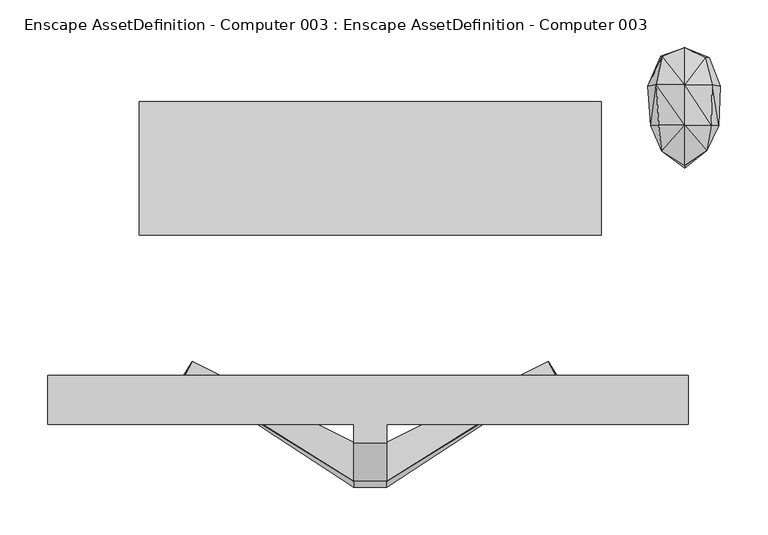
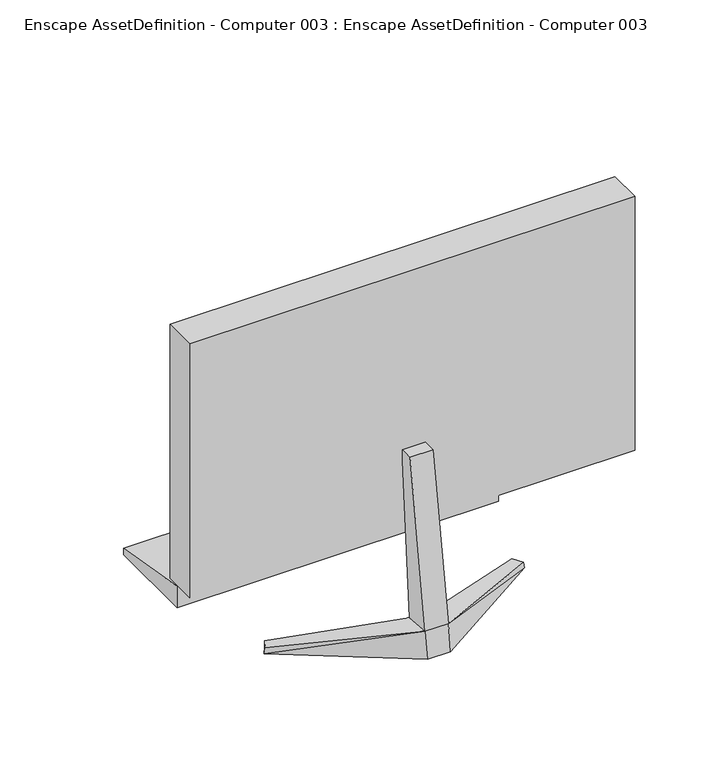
"""IFC4 building model written with IfcOpenShell, lengths in millimetres: geographic element geometry, Enscape AssetDefinition - Computer 003 : Enscape AssetDefinition - Computer 003."""

from ifc_helpers import new_model, si_unit, origin, place, context, project, spatial, triangles, source, transform, mapped, element, save


def enscape_assetdefinition_computer_003_enscape_assetdefinition_0dfb8451(model_context):
    return source(origin(), model_context, "Body", "Tessellation", [
        triangles([(-338.1716912, -38.3000741, 575.0920046), (-338.1716912, -38.3001422, 170.3935965), (-338.1716912, 13.2326657, 170.3935965), (333.1434371, -38.3000695, 575.0920046), (333.1434371, 13.2327293, 575.0920046), (333.1434371, -38.3001377, 170.3935965), (333.1434371, 13.2326657, 170.3935965), (-338.1716912, 13.2327293, 575.0920046), (242.4426507, 300.6675851, 0.0), (-242.3718701, 300.6675851, 0.0), (-242.3718701, 300.6675851, 9.8504309), (-242.3718701, 160.7831911, 34.7740697), (242.4426507, 160.7831911, 0.0), (-242.3718701, 160.7831911, 0.0), (242.4426507, 160.7831911, 34.7740697), (242.4426507, 300.6675851, 9.8504309), (329.5755589, 357.1807054, -3.94e-05), (304.664198, 348.5509995, -3.94e-05), (329.5755589, 357.180778, 15.2751362), (306.3190933, 348.5510359, 15.2751362), (329.5755589, 318.4857562, 39.4488866), (294.0925685, 275.3478551, 0.0), (291.0714775, 316.9714954, 0.0), (299.9167407, 318.4857562, 31.3887999), (329.5755589, 299.1631711, 0.0), (302.2414171, 275.7558608, 29.3485334), (305.4094468, 248.4856866, 20.3095797), (357.2628951, 275.7558608, 29.3485334), (352.9854672, 249.052785, 20.3095797), (329.5755589, 275.7558608, 37.4086564), (305.4094468, 248.4857048, 0.0), (329.5755589, 233.6667147, 13.934082), (329.5755589, 231.1056973, 0.0), (352.9854672, 249.052785, 0.0), (365.5977425, 275.3478551, 0.0), (367.004706, 316.9714954, 0.0), (358.3454962, 318.4857562, 31.3887999), (351.1647208, 346.5038861, 15.2751362), (355.3977473, 346.5038135, -3.94e-05), (-17.3660389, -97.8319009, 40.8153775), (-17.3660912, -36.7080133, 293.6909215), (17.3660503, -57.1518758, 37.4825549), (-17.3660446, -57.1518758, 37.4825549), (17.3660423, -61.481944, 0.0), (17.3660968, -36.7080133, 293.6909215), (17.3660912, -37.238025, 269.7091913), (17.3660923, -58.2106502, 293.6909215), (-17.3660866, -58.2106502, 293.6909215), (17.3660389, -104.0212124, 0.0), (17.3660446, -97.8319009, 40.8153775), (196.1022017, 12.9414827, 0.0), (194.565722, 13.1167026, 8.905791), (187.575015, 26.5461199, 0.0), (186.500117, 28.2610407, 8.6716415), (-196.1022017, 12.9414827, 0.0), (-17.3660332, -104.0212124, 0.0), (-194.565722, 13.1167026, 8.905791), (-186.500117, 28.2610407, 8.6716415), (-17.3660367, -61.481944, 0.0), (-187.575015, 26.5461199, 0.0)], [[58, 59, 60], [60, 57, 58], [55, 57, 60], [56, 59, 44], [60, 56, 55], [59, 56, 60], [55, 40, 57], [56, 40, 55], [49, 56, 44], [40, 56, 49], [51, 49, 53], [53, 49, 44], [53, 44, 54], [54, 52, 53], [53, 52, 51], [52, 50, 51], [51, 50, 49], [50, 40, 49], [47, 40, 50], [54, 42, 52], [54, 44, 42], [52, 42, 50], [47, 50, 46], [42, 46, 50], [47, 46, 45], [45, 48, 47], [48, 40, 47], [45, 46, 41], [41, 48, 45], [40, 48, 41], [59, 43, 44], [57, 43, 58], [42, 43, 46], [43, 42, 44], [43, 59, 58], [43, 41, 46], [43, 40, 41], [40, 43, 57], [38, 39, 19], [38, 19, 21], [37, 38, 21], [37, 36, 38], [36, 39, 38], [39, 36, 25], [35, 36, 37], [35, 25, 36], [35, 34, 25], [34, 33, 25], [28, 35, 37], [28, 37, 21], [34, 35, 28], [29, 34, 28], [33, 34, 29], [32, 33, 29], [33, 31, 25], [31, 33, 32], [27, 31, 32], [30, 28, 21], [32, 29, 30], [27, 32, 30], [29, 28, 30], [26, 27, 30], [26, 22, 27], [31, 22, 25], [22, 31, 27], [30, 21, 24], [26, 30, 24], [24, 22, 26], [23, 22, 24], [22, 23, 25], [19, 20, 21], [20, 23, 24], [21, 20, 24], [19, 17, 20], [17, 39, 25], [39, 17, 19], [18, 23, 20], [23, 18, 25], [17, 18, 20], [25, 18, 17], [11, 14, 12], [15, 11, 12], [16, 11, 15], [15, 9, 16], [14, 13, 12], [13, 9, 15], [12, 13, 15], [10, 14, 11], [9, 10, 16], [14, 10, 13], [16, 10, 11], [13, 10, 9], [3, 1, 8], [5, 3, 8], [7, 3, 5], [5, 6, 7], [1, 4, 8], [4, 6, 5], [8, 4, 5], [2, 1, 3], [6, 2, 7], [1, 2, 4], [7, 2, 3], [4, 2, 6]]),
    ])


if __name__ == "__main__":
    model = new_model("IFC4")
    model_context = context("Model", 3, world=origin())
    ifc_project = project(units=[si_unit("LENGTHUNIT", "METRE", prefix="MILLI")], contexts=[model_context])
    site = spatial("IfcSite", under=ifc_project)
    building = spatial("IfcBuilding", under=site)
    placement = place(None, origin())
    enscape_assetdefinition_computer_003_enscape_assetdefinition_shape = enscape_assetdefinition_computer_003_enscape_assetdefinition_0dfb8451(model_context)
    element("IfcGeographicElement", 1, ObjectType="Enscape AssetDefinition - Computer 003 : Enscape AssetDefinition - Computer 003", at=placement, inside=building, context=model_context, shape_type="MappedRepresentation", body=[
        mapped(enscape_assetdefinition_computer_003_enscape_assetdefinition_shape, transform((0.0, 0.0, 0.0), x_axis=(1.0, 0.0, 0.0), y_axis=(0.0, 1.0, 0.0), z_axis=(0.0, 0.0, 1.0))),
    ])
    save(model, "model.ifc")
